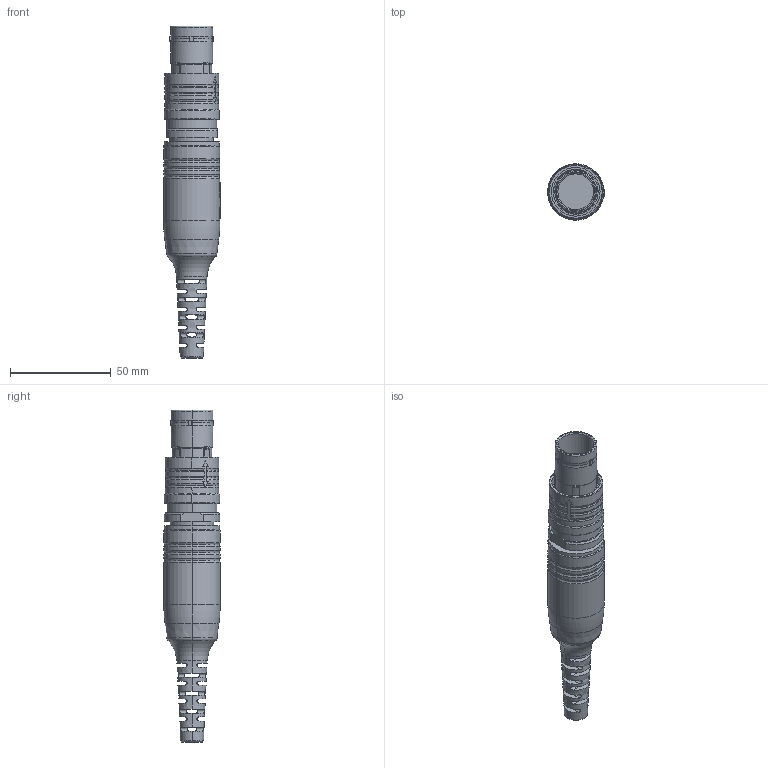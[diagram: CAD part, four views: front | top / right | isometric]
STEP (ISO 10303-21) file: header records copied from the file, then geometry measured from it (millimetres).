
FILE_DESCRIPTION (( 'STEP AP214' ), '1' );
FILE_NAME ('QSEAL-PGFX-XXCH-SXX - R4.STEP', '2025-04-03T23:37:29', ( '' ), ( '' ), 'SwSTEP 2.0', 'SolidWorks 2024', '' );
FILE_SCHEMA (( 'AUTOMOTIVE_DESIGN' ));
Length unit declared in the file: inch
Products named in the file (1): QSEAL-PGFX-XXCH-SXX - R4
Bounding box: 28.19 x 27.94 x 164.72 mm (x, y, z)
Volume: 56305.7 mm3; surface area: 18839.9 mm2
Topology: 1 solids, 1 shells, 424 faces, 1168 edges, 737 vertices
Faces by surface type: plane 171, cylinder 139, torus 64, cone 46, bspline 4
Entity records: 15291 total; most frequent: CARTESIAN_POINT 4630, ORIENTED_EDGE 2336, DIRECTION 2200, EDGE_CURVE 1168, AXIS2_PLACEMENT_3D 899, VERTEX_POINT 737, CIRCLE 478, EDGE_LOOP 459
